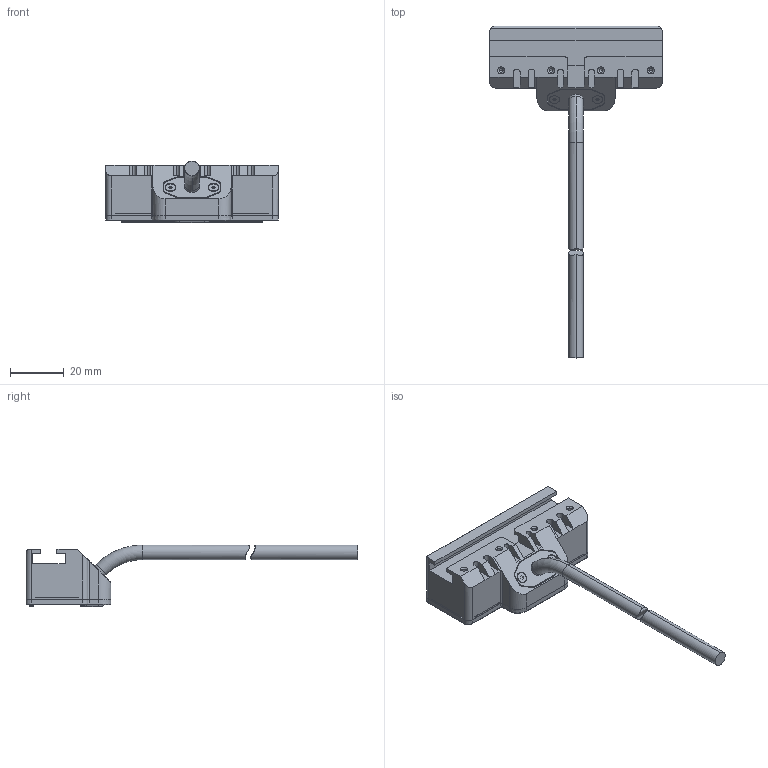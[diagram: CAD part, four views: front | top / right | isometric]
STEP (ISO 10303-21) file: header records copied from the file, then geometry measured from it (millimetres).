
FILE_DESCRIPTION (( 'STEP AP214' ), '1' );
FILE_NAME ('M-TBAR-EC-4-xxx.STEP', '2026-06-05T09:32:48', ( '' ), ( '' ), 'SwSTEP 2.0', 'SolidWorks 2025', '' );
FILE_SCHEMA (( 'AUTOMOTIVE_DESIGN' ));
Length unit declared in the file: millimetre
Products named in the file (1): M-TBAR-EC-4-xxx
Bounding box: 64 x 123.23 x 22.98 mm (x, y, z)
Volume: 30405.6 mm3; surface area: 17460.1 mm2
Topology: 4 solids, 4 shells, 687 faces, 1755 edges, 1122 vertices
Faces by surface type: plane 335, cylinder 180, bspline 82, torus 62, cone 28
Entity records: 27611 total; most frequent: CARTESIAN_POINT 8117, ORIENTED_EDGE 3486, DIRECTION 3235, EDGE_CURVE 1743, VERTEX_POINT 1122, LINE 1119, VECTOR 1119, AXIS2_PLACEMENT_3D 1058
